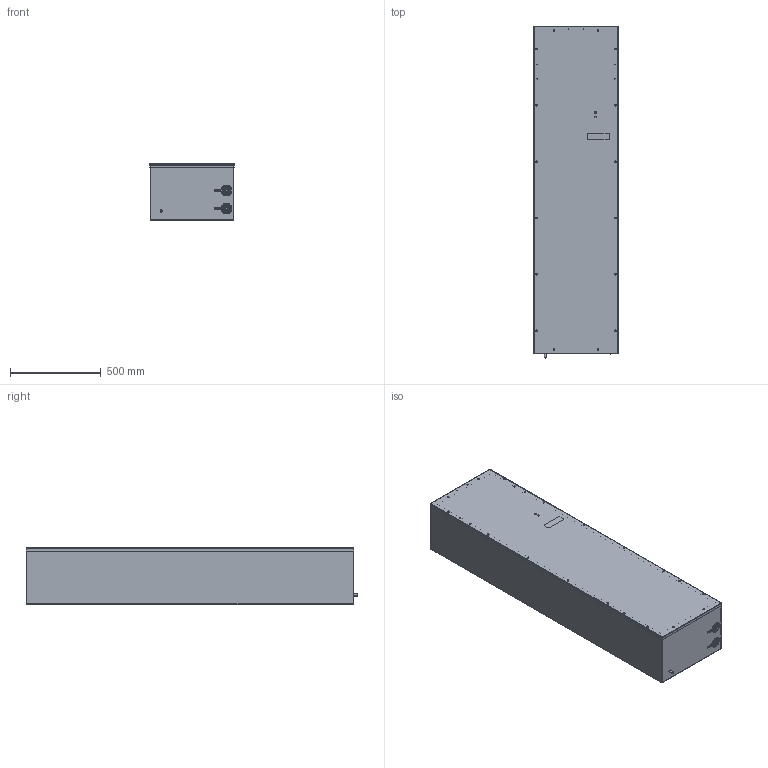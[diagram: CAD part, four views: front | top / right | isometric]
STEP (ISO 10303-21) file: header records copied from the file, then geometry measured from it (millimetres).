
FILE_DESCRIPTION (( 'STEP AP214' ), '1' );
FILE_NAME ('PWS 7702_400V.STEP', '2010-11-17T14:24:53', ( ' ' ), ( ' ' ), 'SwSTEP 2.0', 'SolidWorks 2010', '' );
FILE_SCHEMA (( 'AUTOMOTIVE_DESIGN' ));
Length unit declared in the file: millimetre
Products named in the file (46): 11189-524; Blindnietmutter  Sechskant geschlossen; 025416793 Wago 731-604_019-000; Serrated Lock Washer 1_Pfannenberg GmbH_DIN 6798-A3.2; 020102025  PT.LIKO VZ 3,5x10 Kopf Ø5; Hex Nut Style 1 GradeAB_Pfannenberg GmbH_Hexagon Nut ISO 4032 - M3 - D - N; 025416705 Wago 231-605_019-000; 020142110_Flachstecker_; 30197-011; PWS 1_2-Mutter; Blechschraube mit Linsenkopf und Kreuzschlitz - DIN 7981_020100661 Schraube 4.2x16 St zn  DIN 7981; Scheibe unverlierbar; 085110010  Erdungssymbol Ø8; PWS Schottverschr.; 30230-040; Blechschraube mit Linsenkopf und Kreuzschlitz - DIN 7981_020100655 Schraube 4.2x13 St zn  DIN 7981; Blindniet_020140240  4.8x16.9 K15.6; Flachkopfschraube mit Kreutzschlitz - DIN EN ISO 7045_ISO 7045 - M4 x 8 - Z --- 8N; Federringe - DIN 127_020200110  Federring B4,0 St zn  DIN 127; 11189-433; Blindniet; Dichtring Gasfalit_050000073  Dichtring Gasfalit R1-2; Sicherungsscheibe Schnorr_020200370  S3 St Schnorr; Blechschraube mit Linsenkopf und Kreuzschlitz - DIN 7981_020100610 Schraube 2.9x9.5 St zn  DIN 7981; Blindnietmutter  Sechskant geschlossen_020140024 M8 6kt geschlossen St; Flachkopfschraube mit Kreutzschlitz - DIN EN ISO 7045_ISO 7045 - M3 x 6 - Z --- 6N; Blindnietmutter  Sechskant offen_020140002 M4x9,5 6kt offen St; Blindniet_020103030  3.2x6.1 K7.6; 11285-035; 11189-420-085000066; 11189-420-085000065; 11189-294; Schild E-Kennzeichnung_Schild X54; Schild E-Kennzeichnung; 11189-422; PWS 7702_400V; 30197-039; 30043-015; 30197-012; Rohrschelle Schlaufenform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
Assembly tree (133 placements, depth 2):
  PWS 7702_400V
    Blechschraube mit Linsenkopf und Kreuzschlitz - DIN 7981_020100661 Schraube 4.2x16 St zn  DIN 7981  x16
    11189-420-085000065
    025416793 Wago 731-604_019-000
    030300452 Sicherungseinsatz FEC  x2
    Blindniet  x11
    PWS 1_2-Mutter  x2
    Blindnietmutter  Sechskant geschlossen  x10
    Rohrschelle Schlaufenform
    Schild E-Kennzeichnung_Schild X54
    Scheibe unverlierbar  x16
    Blechschraube mit Linsenkopf und Kreuzschlitz - DIN 7981_020100655 Schraube 4.2x13 St zn  DIN 7981  x4
    Blindniet_020140240  4.8x16.9 K15.6  x7
    Flachkopfschraube mit Kreutzschlitz - DIN EN ISO 7045_ISO 7045 - M3 x 6 - Z --- 6N  x3
    30043-015
    11189-420-085000066
    11189-524
    020102025  PT.LIKO VZ 3,5x10 Kopf Ø5  x4
    030300451 Sicherungshalter FEC  x2
    Flachkopfschraube mit Kreutzschlitz - DIN EN ISO 7045_ISO 7045 - M4 x 8 - Z --- 8N  x6
    Federringe - DIN 127_020200110  Federring B4,0 St zn  DIN 127  x6
    Blindnietmutter  Sechskant geschlossen_020140024 M8 6kt geschlossen St  x2
    Sicherungsscheibe Schnorr_020200370  S3 St Schnorr  x2
    025416705 Wago 231-605_019-000
    Blindniet_020103030  3.2x6.1 K7.6  x3
    11189-294
    30230-040  x2
    Dichtring Gasfalit_050000073  Dichtring Gasfalit R1-2
    025510035_Erdungsfahne 6-fach
    Blindnietmutter  Sechskant offen_020140002 M4x9,5 6kt offen St  x6
    11285-035  x2
    30197-012
    Hex Nut Style 1 GradeAB_Pfannenberg GmbH_Hexagon Nut ISO 4032 - M3 - D - N
    11189-481
    Schild E-Kennzeichnung
    30197-011
    020142110_Flachstecker_
    Serrated Lock Washer 1_Pfannenberg GmbH_DIN 6798-A3.2
    030600204-2  Thermostat Jumo-Fühler
    30197-039
    11189-433
    PWS Schottverschr.  x2
    Blechschraube mit Linsenkopf und Kreuzschlitz - DIN 7981_020100610 Schraube 2.9x9.5 St zn  DIN 7981
    085110010  Erdungssymbol Ø8
    11189-422
    Vulkangitter_005070013  435x379
Bounding box: 464 x 1827 x 318.05 mm (x, y, z)
Volume: 3311523.6 mm3; surface area: 6612945.1 mm2
Topology: 159 solids, 159 shells, 4854 faces, 12239 edges, 7754 vertices
Faces by surface type: plane 2750, cylinder 982, bspline 577, cone 543, torus 2
Entity records: 114683 total; most frequent: CARTESIAN_POINT 25382, ORIENTED_EDGE 12760, DIRECTION 11753, EDGE_CURVE 6380, VECTOR 4379, LINE 4379, VERTEX_POINT 4121, AXIS2_PLACEMENT_3D 3687
